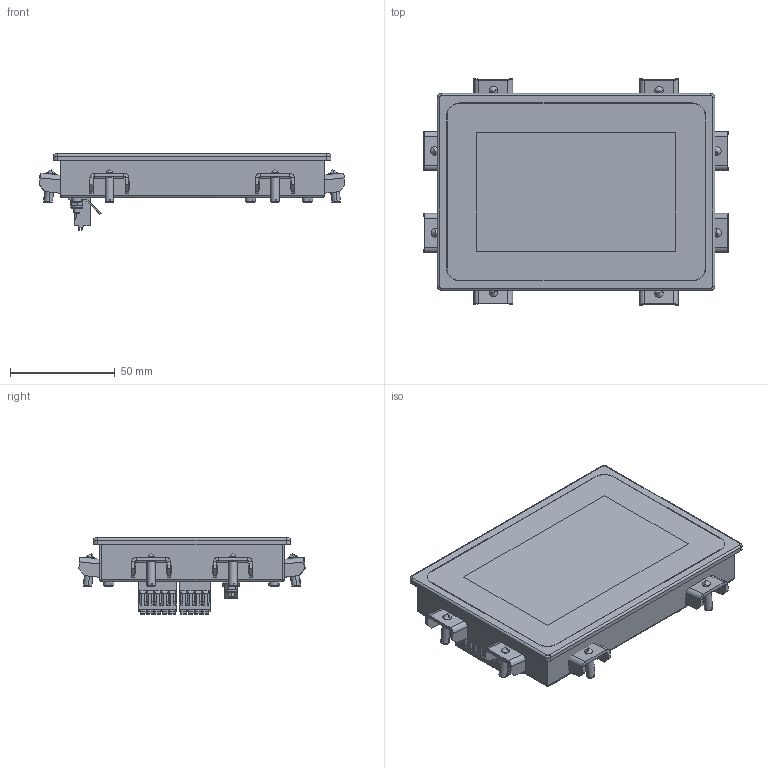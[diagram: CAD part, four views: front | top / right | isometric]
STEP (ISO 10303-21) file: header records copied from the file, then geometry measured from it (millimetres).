
FILE_DESCRIPTION (( 'STEP AP214' ), '1' );
FILE_NAME ('04318_ 4,3z Terminal-S_V10.STEP', '2019-03-06T12:59:24', ( 'Windows-Benutzer' ), ( '' ), 'SwSTEP 2.0', 'SolidWorks 2018', '' );
FILE_SCHEMA (( 'AUTOMOTIVE_DESIGN' ));
Length unit declared in the file: millimetre
Products named in the file (22): Abstandsbolzen GBM2,504IA9,5 St-verzinkt; 4110262172 4pol.Federkraftstecker f.2reih 1705390; 3030261915 Abstandsbuchse D5 d3,2 L6mm; ZExxxx-4738-x3 4,3z Gehäuse; TF043WQBS-36C; ZExxxx-4737-x3 4,3z Front; 4110262173 5pol._Federkraftstecker_fmc_1.5-5-st-3.5_1952296; Abstandsbolzen ABM02,505II9,4 Ms-vernickel; Gewindestift ISO 7434 - M4 x 16 - 14H - A2F; Sechskantmutter EN ISO 10511 (DIN 985) - M2,5 - 04 - A2F; fh_m3_8; 3030202987-BGR-XX Befestigungselement klein 0,8mm m. Gewindestift; Sechskantmutter EN ISO 10511 (DIN 985) - M3 - 04 St-verzinkt; fhl_m2_5_12; 3030261492 Steckzunge 6,3 m.B. M3 DIN46244 St-verzinnt; fhl_m2_5_6; Abstandsbolzen ABM02,505II17 Ms-vernickel; ZM1614-3863-10; 3030301107 Flachkopfschraube ISO 7045 (DIN 7985) M2,5 x4-Z7 - 4.8-H-A2F-Torx; 04318_ 4,3z Terminal-S_V10
Assembly tree (40 placements, depth 3):
  04318_ 4,3z Terminal-S_V10
    ZExxxx-4737-x3 4,3z Front
      ZExxxx-4737-x3 4,3z Front
      fhl_m2_5_12  x2
      fhl_m2_5_6  x2
    ZExxxx-4738-x3 4,3z Gehäuse
      fh_m3_8
      ZExxxx-4738-x3 4,3z Gehäuse
    4110262173 5pol._Federkraftstecker_fmc_1.5-5-st-3.5_1952296
    4110262172 4pol.Federkraftstecker f.2reih 1705390
    TF043WQBS-36C
    Sechskantmutter EN ISO 10511 (DIN 985) - M2,5 - 04 - A2F  x2
    3030301107 Flachkopfschraube ISO 7045 (DIN 7985) M2,5 x4-Z7 - 4.8-H-A2F-Torx  x6
    3030261492 Steckzunge 6,3 m.B. M3 DIN46244 St-verzinnt
    Sechskantmutter EN ISO 10511 (DIN 985) - M3 - 04 St-verzinkt
    3030202987-BGR-XX Befestigungselement klein 0,8mm m. Gewindestift  x8
      Gewindestift ISO 7434 - M4 x 16 - 14H - A2F
      ZM1614-3863-10
    Abstandsbolzen ABM02,505II17 Ms-vernickel  x2
    Abstandsbolzen GBM2,504IA9,5 St-verzinkt  x2
    Abstandsbolzen ABM02,505II9,4 Ms-vernickel  x2
    3030261915 Abstandsbuchse D5 d3,2 L6mm  x2
Bounding box: 145.93 x 107.98 x 36.3 mm (x, y, z)
Volume: 74727 mm3; surface area: 100082 mm2
Topology: 47 solids, 47 shells, 2022 faces, 5133 edges, 3242 vertices
Faces by surface type: plane 1173, cylinder 604, cone 165, bspline 46, torus 34
Entity records: 47302 total; most frequent: CARTESIAN_POINT 9627, ORIENTED_EDGE 7210, DIRECTION 7126, EDGE_CURVE 3605, LINE 2484, VECTOR 2484, VERTEX_POINT 2326, AXIS2_PLACEMENT_3D 2321
